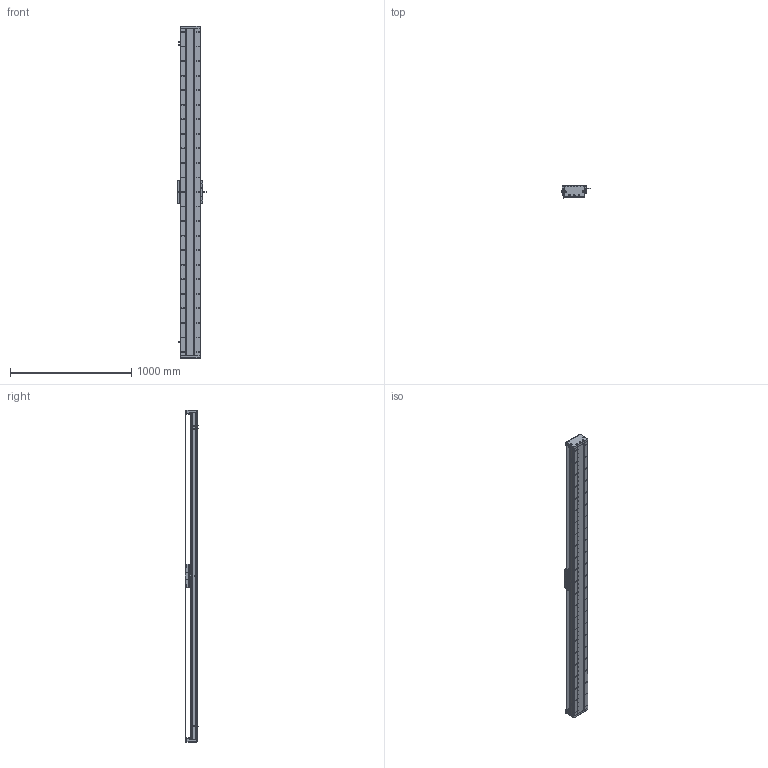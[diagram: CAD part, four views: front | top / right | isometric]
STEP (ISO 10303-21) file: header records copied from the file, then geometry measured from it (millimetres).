
FILE_DESCRIPTION (( 'STEP AP203' ), '1' );
FILE_NAME ('DA-C165-C2-T2460-C010-0.2 直线电机.STEP', '2023-05-11T07:48:33', ( '微软用户' ), ( '微软中国' ), 'SwSTEP 2.0', 'SolidWorks 2019', '' );
FILE_SCHEMA (( 'CONFIG_CONTROL_DESIGN' ));
Length unit declared in the file: millimetre
Products named in the file (18): 复件 CU165钢带组件^DA-C165-C2-T-C010-0.2-N 直线电机; 葩璃 CKM01-W075-TRL^DA-C165-C2-T-C010-0.2-N 眻盄萇儂; 复件 六角薄螺母 M3^DA-C165-C2-T-C010-0.2-N 直线电机_GB_FASTENER_NUT_STNAB M3-C; 珨极趙賑雄怢啣wf-C2; 复件 XD-U-02L 磁栅尺^DA-C165-C2-T-C010-0.2-N 直线电机_T; 复件 DA165-GDLK-00 钢带拉块^复件 CU165钢带组件_DA-C165-C2-T-C010-0.2-N 直线电机; IU-CU165-L-00 菁釱_L2700; 复件 DA165-GDYK-00 钢带压块^复件 CU165钢带组件_DA-C165-C2-T-C010-0.2-N 直线电机; 葩璃 PM-T45^DA-C165-C2-T-C010-0.2-N 眻盄萇儂; 复件 DMA-010-0.2 读数头^DA-C165-C2-T-C010-0.2-N 直线电机; 复件 CKM02-W075-C1C2-TP-3.0 一体电机-C2^DA-C165-C2-T-C010-0.2-N 直线电机; 复件 DA165-GD-DG-H-00 端盖^复件 CU165钢带组件_DA-C165-C2-T-C010-0.2-N 直线电机; 葩璃 DA95-GT-T-00^IU-CU165-L 菁釱絳寢_T; 复件 DA95-HXJ-00 缓冲橡胶^DA-C165-C2-T-C010-0.2-N 直线电机; DA-C165-C2-T2460-C010-0.2 眻盄萇儂; IU-CU165-L 菁釱絳寢; 复件 DA165-GD-1860-002-00 钢带盖板^复件 CU165钢带组件_DA-C165-C2-T-C010-0.2-N 直线电机; 复件 DA165-GYP-00 光电感应片^DA-C165-C2-T-C010-0.2-N 直线电机
Assembly tree (33 placements, depth 3):
  DA-C165-C2-T2460-C010-0.2 眻盄萇儂
    IU-CU165-L 菁釱絳寢
      IU-CU165-L-00 菁釱_L2700
      葩璃 DA95-GT-T-00^IU-CU165-L 菁釱絳寢_T  x4
    复件 XD-U-02L 磁栅尺^DA-C165-C2-T-C010-0.2-N 直线电机_T
    葩璃 PM-T45^DA-C165-C2-T-C010-0.2-N 眻盄萇儂  x3
    葩璃 CKM01-W075-TRL^DA-C165-C2-T-C010-0.2-N 眻盄萇儂
    复件 CU165钢带组件^DA-C165-C2-T-C010-0.2-N 直线电机
      复件 DA165-GD-DG-H-00 端盖^复件 CU165钢带组件_DA-C165-C2-T-C010-0.2-N 直线电机  x2
      复件 DA165-GDYK-00 钢带压块^复件 CU165钢带组件_DA-C165-C2-T-C010-0.2-N 直线电机  x2
      复件 DA165-GD-1860-002-00 钢带盖板^复件 CU165钢带组件_DA-C165-C2-T-C010-0.2-N 直线电机
      复件 DA165-GDLK-00 钢带拉块^复件 CU165钢带组件_DA-C165-C2-T-C010-0.2-N 直线电机  x2
    复件 DA95-HXJ-00 缓冲橡胶^DA-C165-C2-T-C010-0.2-N 直线电机  x4
    复件 DA165-GYP-00 光电感应片^DA-C165-C2-T-C010-0.2-N 直线电机
    复件 DMA-010-0.2 读数头^DA-C165-C2-T-C010-0.2-N 直线电机
    复件 CKM02-W075-C1C2-TP-3.0 一体电机-C2^DA-C165-C2-T-C010-0.2-N 直线电机
    复件 六角薄螺母 M3^DA-C165-C2-T-C010-0.2-N 直线电机_GB_FASTENER_NUT_STNAB M3-C  x6
    珨极趙賑雄怢啣wf-C2
Bounding box: 233 x 111.45 x 2740 mm (x, y, z)
Volume: 15137632.3 mm3; surface area: 4571308.2 mm2
Topology: 70 solids, 70 shells, 3951 faces, 11673 edges, 7469 vertices
Faces by surface type: cylinder 2365, plane 1106, cone 430, torus 46, sphere 4
Entity records: 134715 total; most frequent: CARTESIAN_POINT 36887, ORIENTED_EDGE 20518, DIRECTION 19629, EDGE_CURVE 10259, AXIS2_PLACEMENT_3D 7509, VERTEX_POINT 6705, EDGE_LOOP 4664, LINE 4611
